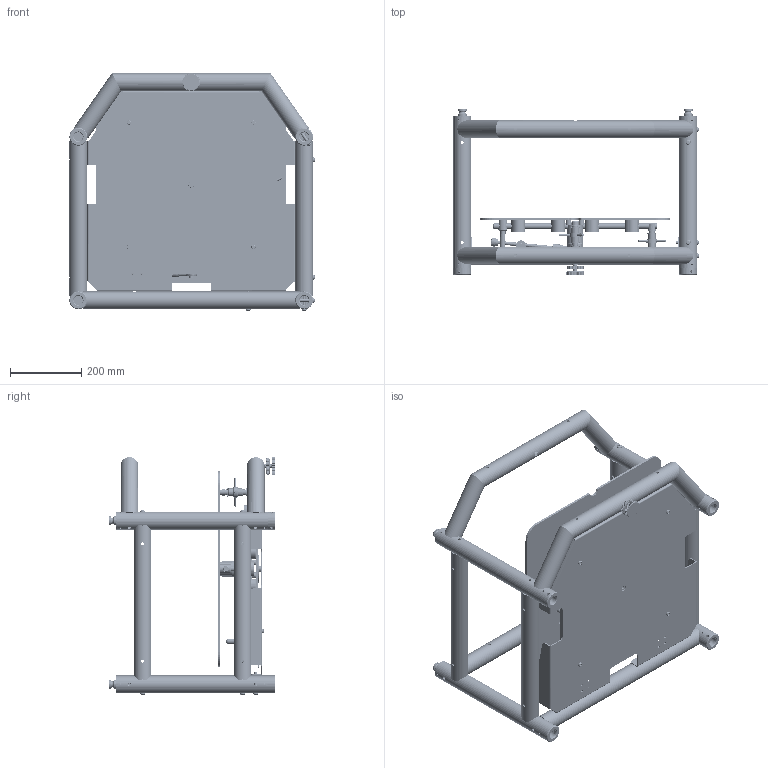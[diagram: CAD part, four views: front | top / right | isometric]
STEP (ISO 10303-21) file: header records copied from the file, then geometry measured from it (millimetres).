
FILE_DESCRIPTION(/* description */ ('Unknown'),/* implementation_level */ '2;1');
FILE_NAME(/* name */ '24303 140-154101-01 pulito',/* time_stamp */ '2023-05-10T09:43:56+02:00',/* author */ ('Unknown'),/* organization */ ('Unknown'),/* preprocessor_version */ 'ST-DEVELOPER v18.102',/* originating_system */ 'Solid Edge',/* authorisation */ 'Unknown');
FILE_SCHEMA (('AUTOMOTIVE_DESIGN {1 0 10303 214 3 1 1}'));
Length unit declared in the file: millimetre
Products named in the file (51): 24303   140-154101-01  pulito; 16481 copia ST; albero rotazionale(3); 15687; 08670; 14240; 15475; 14241; vite BUTTON M5x10 ISO 7380; 16396; KBRM10 (0); KBRM10_3 (0); KBRM10_1 (0); KBRM10_2 (0); 14504; MECCANICA TRABATTELLO 16481 (4); 14236; 14238; 14801; 14237; 12456; 12455 con perni; 12455; 24830; 12454; 15326; 14584; 14555; 14868; 24440   middle plate 20230508; ASSE PICCOLO; 12453 - Copia; 14804; 24306; ex anello 50 (3); 15446; 15445 (4); braccio frontale; ex 15449; vite m8 x70 button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
Assembly tree (95 placements, depth 5):
  24303   140-154101-01  pulito
    16481 copia ST
      albero rotazionale(3)
        15687
        08670
        14240
        15475  x2
        14241
        vite BUTTON M5x10 ISO 7380
      16396
      KBRM10 (0)
        KBRM10_3 (0)
        KBRM10_1 (0)
        KBRM10_2 (0)
      14504
      MECCANICA TRABATTELLO 16481 (4)
        14236
        14238
        14801
        14237  x8
        12456  x2
        12455 con perni  x2
          12455
          24830
        12454  x2
        15326
        14584  x2
        14555  x2
        14868  x4
        24440   middle plate 20230508
        ASSE PICCOLO  x2
          12453 - Copia
          14804
    24306
      ex anello 50 (3)  x2
        15446
      15445 (4)  x2
      braccio frontale  x2
      ex 15449  x4
      vite m8 x70 button  x8
      vite m8 x60 button  x3
      15444
      EX 15448
        EX 15448
        m8 a pressione  x4
      tubo anteriore 50 alluminio  x2
    15466  x4
    15467  x4
    inserto M10
    P20050.TM10X3501
    Q26045.BM0801P
Bounding box: 689.3 x 468 x 667.83 mm (x, y, z)
Volume: 7792000.9 mm3; surface area: 3893512.6 mm2
Topology: 90 solids, 91 shells, 5258 faces, 14897 edges, 9745 vertices
Faces by surface type: plane 3157, cylinder 1659, cone 242, torus 130, bspline 65, sphere 5
Full cylindrical faces by diameter (mm): 3.242 x2, 4 x1, 4.134 x24, 4.917 x8, 5 x1, 5.1 x12, 5.2 x4, 5.5 x24, 6 x28, 6.5 x40, 6.647 x11, 7.99 x1, 8 x25, 8.029 x1, 8.376 x3, 8.5 x74, 9 x1, 10 x12, 10.5 x1, 12 x4, 14 x13, 14.01 x2, 14.917 x8, 15 x7, 16 x18, 16.05 x8, 16.5 x2, 16.8 x2, 17 x2, 17.474 x1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
Entity records: 97186 total; most frequent: CARTESIAN_POINT 24320, ORIENTED_EDGE 12172, DIRECTION 11530, EDGE_CURVE 6086, AXIS2_PLACEMENT_3D 4387, VERTEX_POINT 4143, FACE_BOUND 3077, EDGE_LOOP 3069
